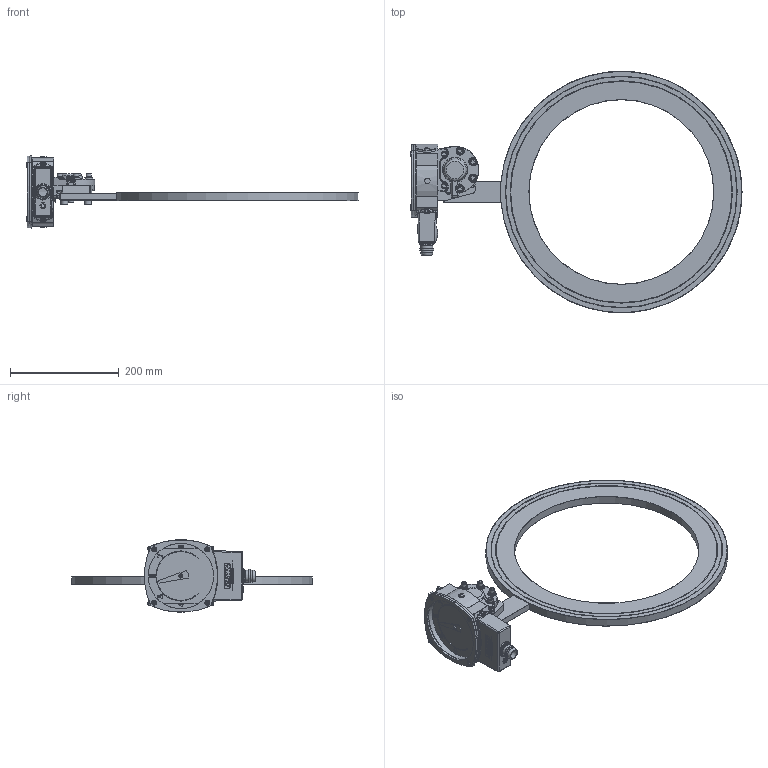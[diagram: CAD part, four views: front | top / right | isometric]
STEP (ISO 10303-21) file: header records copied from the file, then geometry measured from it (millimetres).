
FILE_DESCRIPTION(/* description */ ('Alibre Inc.'),/* implementation_level */ '2;1');
FILE_NAME(/* name */ 'export0',/* time_stamp */ '2012-10-19T13:43:09+02:00',/* author */ (''),/* organization */ (''),/* preprocessor_version */ 'ST-DEVELOPER v14',/* originating_system */ 'Alibre',/* authorisation */ '');
FILE_SCHEMA (('CONFIG_CONTROL_DESIGN'));
Length unit declared in the file: centimetre
Products named in the file (19): ID_1; ID_2; ID_3; ID_4; ID_5; ID_6; ID_7; ID_8; ID_9; ID_10; ID_11; ID_12; ID_13; ID_14; ID_15
Bounding box: 611.43 x 444.17 x 132.74 mm (x, y, z)
Volume: 1440507.9 mm3; surface area: 393194.2 mm2
Topology: 31 solids, 31 shells, 1723 faces, 4150 edges, 2558 vertices
Faces by surface type: plane 766, bspline 365, cylinder 322, torus 158, cone 86, sphere 26
Full cylindrical faces by diameter (mm): 3.9 x2, 5 x18, 5.2 x2, 5.5 x5, 5.541 x2, 6 x28, 6.35 x2, 6.5 x7, 8 x7, 8.5 x2, 9.6 x6, 10 x11, 10.5 x1, 12 x3, 13 x2, 14 x3, 16 x1, 19.5 x1, 22 x2, 22.5 x4, 25 x1, 29 x1, 31 x1, 120.5 x3, 123.4 x1, 129 x1, 340 x1, 408 x2, 409 x2, 426 x2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
Entity records: 60556 total; most frequent: CARTESIAN_POINT 28551, ORIENTED_EDGE 6474, DIRECTION 4845, EDGE_CURVE 3237, VERTEX_POINT 2118, AXIS2_PLACEMENT_3D 2016, EDGE_LOOP 1787, FACE_BOUND 1787
